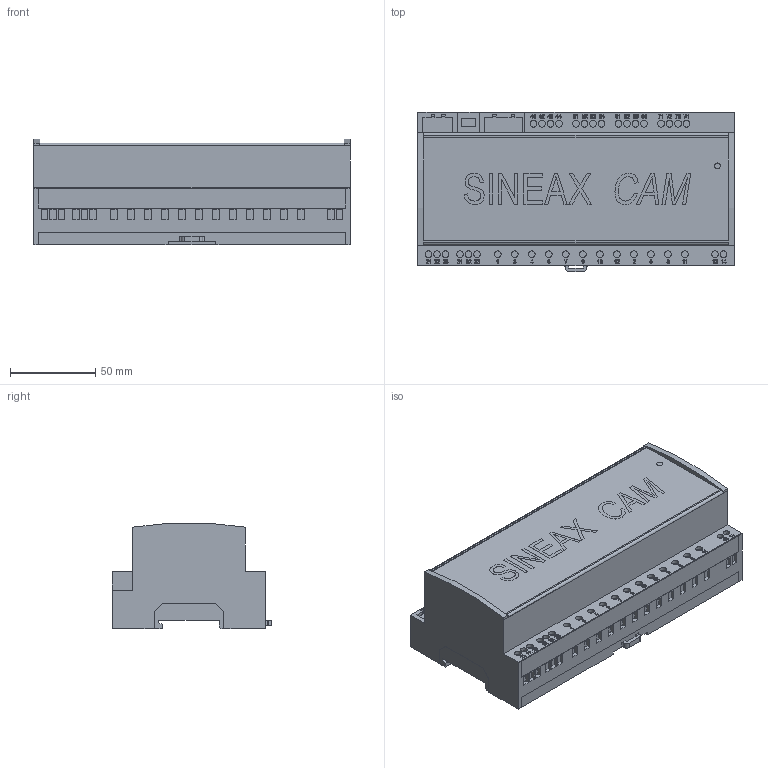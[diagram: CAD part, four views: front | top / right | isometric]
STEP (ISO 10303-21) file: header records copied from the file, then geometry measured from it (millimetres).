
FILE_DESCRIPTION (( 'STEP AP214' ), '1' );
FILE_NAME ('SINEAX CAM.STEP', '2016-07-22T11:35:57', ( 'inst' ), ( '' ), 'SwSTEP 2.0', 'SolidWorks 2013', '' );
FILE_SCHEMA (( 'AUTOMOTIVE_DESIGN' ));
Length unit declared in the file: millimetre
Products named in the file (1): SINEAX CAM
Bounding box: 186 x 93.5 x 62.24 mm (x, y, z)
Volume: 802009.9 mm3; surface area: 118183.5 mm2
Topology: 2 solids, 2 shells, 1457 faces, 3998 edges, 2632 vertices
Faces by surface type: plane 960, bspline 452, cylinder 45
Full cylindrical faces by diameter (mm): 3.5 x1, 4 x36
Entity records: 85743 total; most frequent: CARTESIAN_POINT 35727, ORIENTED_EDGE 7922, DIRECTION 5159, EDGE_CURVE 3961, LINE 2967, VECTOR 2967, VERTEX_POINT 2632, EDGE_LOOP 1663
